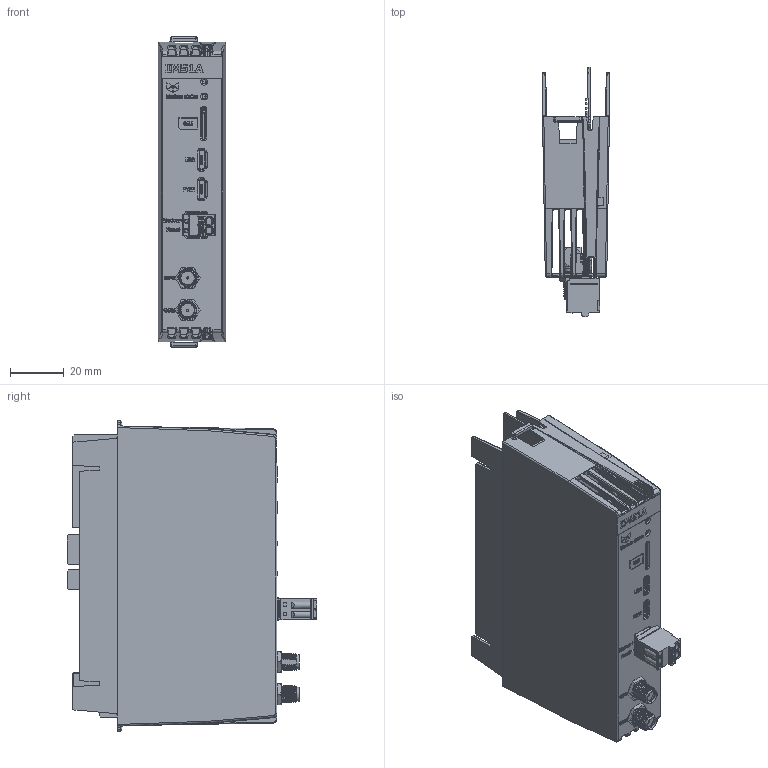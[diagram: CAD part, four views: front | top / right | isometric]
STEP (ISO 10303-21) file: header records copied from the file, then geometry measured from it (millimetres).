
FILE_DESCRIPTION(/* description */ (''),/* implementation_level */ '2;1');
FILE_NAME(/* name */ 'C:\Users\Public\Documents\Autodesk\Inventor 2023\IM51A_Simplified.stp',/* time_stamp */ '2024-10-22T20:40:15+02:00',/* author */ ('shoma'),/* organization */ (''),/* preprocessor_version */ 'ST-DEVELOPER v19',/* originating_system */ 'Autodesk Inventor 2023',/* authorisation */ '');
FILE_SCHEMA (('AUTOMOTIVE_DESIGN { 1 0 10303 214 3 1 1 }'));
Products named in the file (1): IM51A_Simplified
Bounding box: 24.95 x 92.92 x 115.5 mm (x, y, z)
Volume: 93978.8 mm3; surface area: 53892.1 mm2
Topology: 5 solids, 7 shells, 4019 faces, 11226 edges, 7267 vertices
Faces by surface type: plane 2477, cylinder 1046, bspline 416, cone 46, sphere 28, torus 6
Full cylindrical faces by diameter (mm): 0.296 x1, 0.3 x159, 0.457 x1, 0.8 x2, 1.1 x6, 1.17 x2, 1.2 x2, 1.25 x2, 1.3 x2, 1.6 x2, 1.7 x8, 2.5 x1, 2.7 x1, 3.1 x2, 4 x1, 5 x2, 5.25 x2, 6.35 x4, 6.8 x2
Entity records: 168909 total; most frequent: CARTESIAN_POINT 61872, ORIENTED_EDGE 22401, DIRECTION 19920, EDGE_CURVE 11202, LINE 8028, VECTOR 8028, VERTEX_POINT 7267, AXIS2_PLACEMENT_3D 5946
